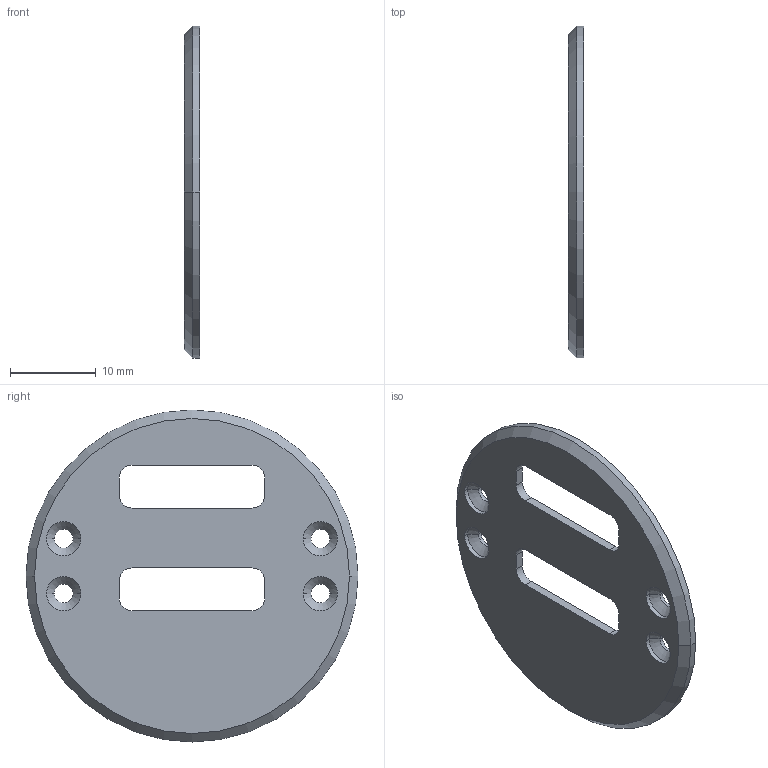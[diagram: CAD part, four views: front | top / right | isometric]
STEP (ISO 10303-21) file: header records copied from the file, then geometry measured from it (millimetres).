
FILE_DESCRIPTION(/* description */ ('(C) Elphel, Inc. 2012. Licensed under CERN OHL v.1.1 or later, see http://ohwr.org/cernohl'),/* implementation_level */ '2;1');
FILE_NAME(/* name */ '0353-24-07',/* time_stamp */ '2012-12-05T22:38:45-07:00',/* author */ (''),/* organization */ ('Elphel, Inc'),/* preprocessor_version */ 'ST-DEVELOPER v12',/* originating_system */ 'VariCAD 2012-1.04; kernel version (20100102)',/* authorisation */ '');
FILE_SCHEMA (('CONFIG_CONTROL_DESIGN'));
Length unit declared in the file: millimetre
Products named in the file (1): Part
Bounding box: 1.8 x 38.8 x 38.8 mm (x, y, z)
Volume: 1579.3 mm3; surface area: 2370.3 mm2
Topology: 1 solids, 1 shells, 64 faces, 162 edges, 102 vertices
Faces by surface type: cylinder 34, plane 20, cone 10
Entity records: 2002 total; most frequent: DIRECTION 364, CARTESIAN_POINT 330, ORIENTED_EDGE 324, EDGE_CURVE 162, AXIS2_PLACEMENT_3D 136, VERTEX_POINT 102, LINE 92, VECTOR 92
